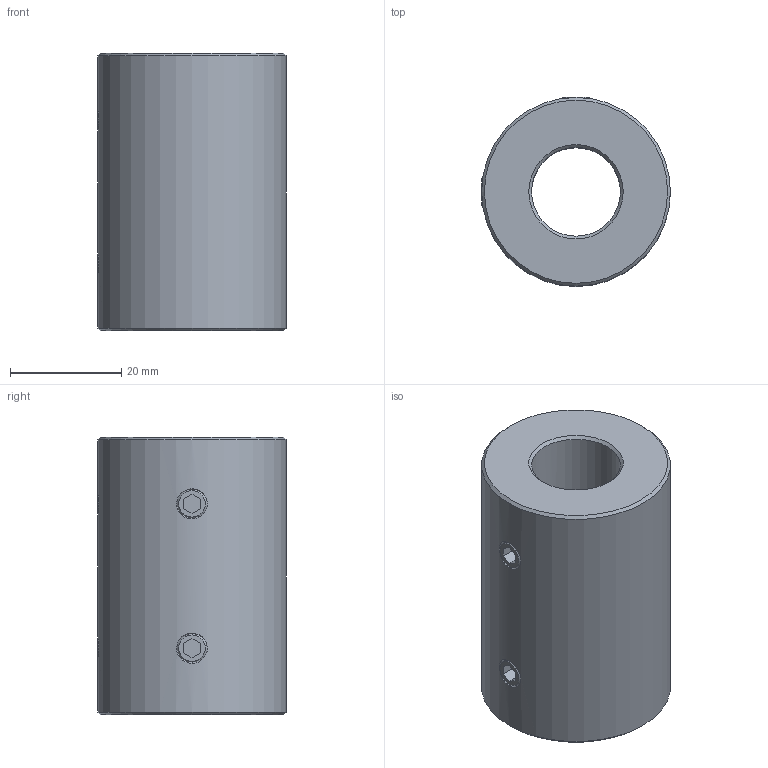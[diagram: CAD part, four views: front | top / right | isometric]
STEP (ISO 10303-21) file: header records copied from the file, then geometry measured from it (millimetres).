
FILE_DESCRIPTION (( 'STEP AP214' ), '1' );
FILE_NAME ('KBST1-VA-16.STEP', '2025-07-29T07:02:56', ( '' ), ( '' ), 'SwSTEP 2.0', 'SolidWorks 2024', '' );
FILE_SCHEMA (( 'AUTOMOTIVE_DESIGN' ));
Length unit declared in the file: millimetre
Products named in the file (1): KBST1-VA-16
Bounding box: 34 x 34 x 50 mm (x, y, z)
Volume: 35024.9 mm3; surface area: 10453.9 mm2
Topology: 5 solids, 5 shells, 80 faces, 178 edges, 104 vertices
Faces by surface type: plane 34, cone 28, cylinder 14, bspline 4
Full cylindrical faces by diameter (mm): 5 x4, 16 x1, 34 x1
Entity records: 7651 total; most frequent: CARTESIAN_POINT 5029, DIRECTION 338, ORIENTED_EDGE 312, EDGE_CURVE 156, AXIS2_PLACEMENT_3D 117, EDGE_LOOP 108, VECTOR 104, LINE 104
